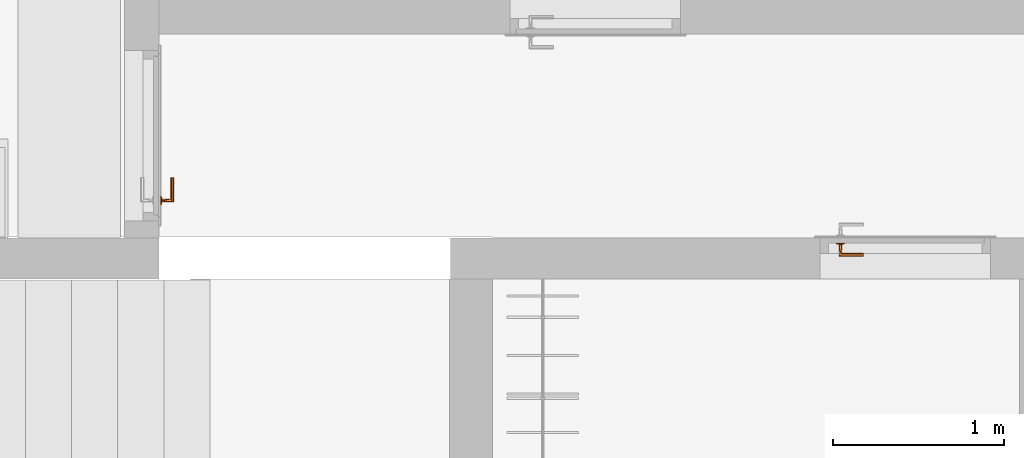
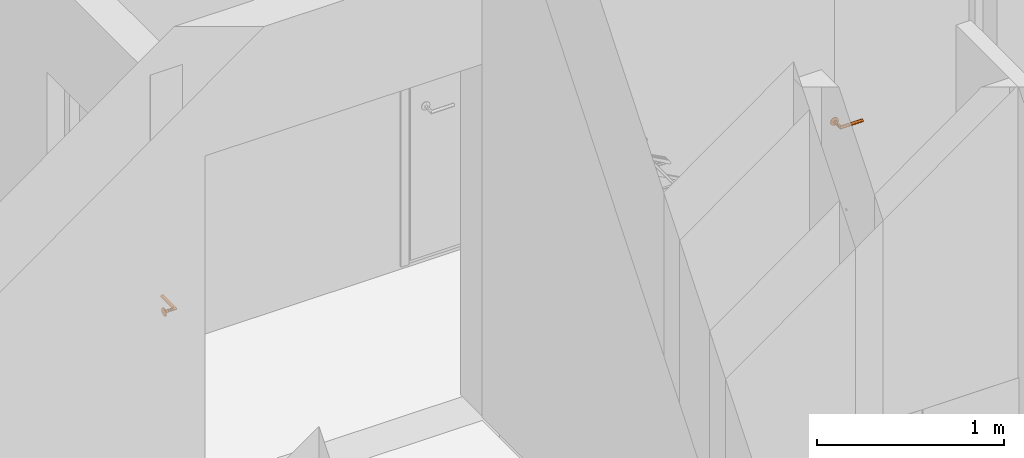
# One storey, part 42 of 68: 2 proxies.
"""IFC2X3 building model written with IfcOpenShell, lengths in millimetres."""

from ifc_helpers import new_model, entity, si_unit, converted_unit, direction, frame, origin, place, context, subcontext, project, spatial, faceted_brep, source, transform, mapped, material, type_object, type_shapes, element, save


model = new_model("IFC2X3")

# Units and contexts
model_context = context("Model", 3, precision=0.01, world=origin(), true_north=direction((6.123233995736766e-17, 1.0)))
plan_context = context("Plan", 3, precision=0.01, world=origin(), true_north=direction((6.123233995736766e-17, 1.0)))
body_context = subcontext(model_context, "Body", "Model", "MODEL_VIEW")
ifc_project = project(units=[si_unit("LENGTHUNIT", "METRE", prefix="MILLI"), converted_unit("PLANEANGLEUNIT", "DEGREE", entity("IfcPlaneAngleMeasure", 0.017453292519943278), si_unit("PLANEANGLEUNIT", "RADIAN"), dimensions=[0, 0, 0, 0, 0, 0, 0]), si_unit("AREAUNIT", "SQUARE_METRE")], contexts=[model_context, plan_context])

# Site, building, storey, space
site_placement = place(None, origin())
site = spatial("IfcSite", under=ifc_project, at=site_placement, Name="Default", CompositionType="ELEMENT")
building_placement = place(site_placement, origin())
building = spatial("IfcBuilding", under=site, at=building_placement, CompositionType="ELEMENT")
storey_placement = place(building_placement, frame((0.0, 0.0, 6295.0)))
storey = spatial("IfcBuildingStorey", under=building, at=storey_placement, Name="3K", CompositionType="ELEMENT", Elevation=6294.999999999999)
space_placement = place(storey_placement, origin())
space = spatial("IfcSpace", under=storey, at=space_placement, Name="3-0.3", CompositionType="ELEMENT", InteriorOrExteriorSpace="INTERNAL")

# Proxies
ifc_material = material(Name="<Unnamed>")
building_element_proxy_type = type_object("IfcBuildingElementProxyType", Name="Door-handle_Lever_ABLOY_INOXI_3-19ss-002_RT:Default", PredefinedType="NOTDEFINED", material=ifc_material)
shared_shape = source(origin(), body_context, "Body", "Brep", [
    faceted_brep([(0.0, 0.0, 0.0), (8.034441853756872, 24.72746942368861, 0.0), (14.534441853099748, 20.00494299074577, 0.0), (21.034441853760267, 15.282416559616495, 0.0), (23.51722092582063, 7.641208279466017, 0.0), (26.0, 0.0, 0.0), (23.517220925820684, -7.641208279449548, 0.0), (0.0, 24.72746942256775, 0.0), (-8.034441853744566, 24.727469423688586, 0.0), (-14.534441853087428, 20.00494299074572, 0.0), (-21.03444185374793, 15.282416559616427, 0.0), (-23.517220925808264, 7.641208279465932, 0.0), (-26.0, 0.0, 0.0), (21.034441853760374, -15.282416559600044, 0.0), (14.534441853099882, -20.004942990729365, 0.0), (8.034441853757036, -24.72746942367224, 0.0), (0.0, -24.72746942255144, 0.0), (-23.517220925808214, -7.641208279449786, 0.0), (-21.034441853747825, -15.282416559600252, 0.0), (-14.53444185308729, -20.004942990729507, 0.0), (-8.0344418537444, -24.72746942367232, 0.0), (0.0, 0.0, 8.0), (9.500000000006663, 0.0, 8.0), (8.312500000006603, 2.056810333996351, 8.0), (7.125000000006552, 4.113620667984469, 8.0), (5.937500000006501, 6.170431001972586, 8.0), (4.7500000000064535, 8.227241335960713, 8.0), (2.375000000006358, 8.2272413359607, 8.0), (0.0, 8.227241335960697, 8.0), (-2.3749999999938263, 8.227241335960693, 8.0), (-4.749999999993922, 8.227241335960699, 8.0), (-5.937499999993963, 6.1704310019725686, 8.0), (-7.124999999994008, 4.1136206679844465, 8.0), (-8.312499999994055, 2.0568103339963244, 8.0), (-9.499999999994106, 0.0, 8.0), (-8.31249999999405, -2.0568103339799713, 8.0), (8.312500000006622, -2.0568103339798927, 8.0), (7.125000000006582, -4.113620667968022, 8.0), (5.937500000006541, -6.170431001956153, 8.0), (4.750000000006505, -8.227241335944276, 8.0), (-7.124999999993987, -4.113620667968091, 8.0), (-5.9374999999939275, -6.17043100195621, 8.0), (-4.74999999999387, -8.227241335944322, 8.0), (-2.374999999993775, -8.227241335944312, 8.0), (0.0, -8.227241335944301, 8.0), (2.3750000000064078, -8.227241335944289, 8.0), (-20.6430713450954, 6.292822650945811, 5.929480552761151), (-16.663919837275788, 7.932665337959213, 6.877259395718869), (-22.48876527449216, 10.806469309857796, 4.030771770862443), (-16.764060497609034, 3.8202578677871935, 7.1747985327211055), (-12.504579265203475, 5.179566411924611, 7.774932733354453), (-11.979136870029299, 13.678312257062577, 6.945778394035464), (-11.963426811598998, 8.62529041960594, 7.618343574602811), (-9.07172672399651, 10.31160661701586, 7.7520782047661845), (8.03444185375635, 24.727469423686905, 4.030771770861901), (0.0, 24.72746942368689, 4.030771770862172), (5.758554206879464, 20.96753300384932, 5.871476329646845), (20.643071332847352, 6.292822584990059, 5.929480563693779), (22.488765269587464, 10.806469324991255, 4.03077177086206), (16.66391982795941, 7.9326653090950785, 6.877259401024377), (9.49943163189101, 18.6436835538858, 6.154325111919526), (14.534441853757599, 20.004942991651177, 4.030771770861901), (-14.534441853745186, 20.00494299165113, 4.030771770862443), (-21.034441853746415, 15.282416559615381, 4.030771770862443), (-15.783149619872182, 11.991003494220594, 6.50080018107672), (-23.943088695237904, 6.330522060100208, 4.030771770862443), (-23.012042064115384, 0.0, 5.135401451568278), (12.50457924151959, 5.179566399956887, 7.774932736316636), (11.963426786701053, 8.625290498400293, 7.618343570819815), (16.76406041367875, 3.820257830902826, 7.17479855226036), (15.783149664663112, 11.991003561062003, 6.50080015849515), (23.01204200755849, 0.0, 5.135401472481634), (17.9853516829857, 0.0, 6.993737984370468), (8.661516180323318, 10.478936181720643, 7.768126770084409), (-3.3573143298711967, 21.197247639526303, 5.971427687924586), (-8.03444185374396, 24.727469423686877, 4.030771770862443), (-7.711266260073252, 12.76034452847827, 7.594456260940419), (-5.97325794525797, 16.43013906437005, 7.110979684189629), (-9.94191586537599, 17.061976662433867, 6.522757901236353), (11.979136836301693, 13.678312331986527, 6.945778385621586), (5.953298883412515, 16.50608604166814, 7.096344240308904), (7.511307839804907, 13.358932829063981, 7.529187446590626), (-1.5654593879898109, 15.307443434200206, 7.519134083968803), (-7.784980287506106, 20.476295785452, 5.812837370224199), (2.8135289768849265, 17.763922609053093, 6.993737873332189), (-17.985351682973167, 0.0, 6.993737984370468), (-26.0, 0.0, 4.030771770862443), (-23.51722092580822, 7.641208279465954, 4.030771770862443), (26.0, 0.0, 4.030771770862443), (24.308823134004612, 5.204907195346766, 4.030771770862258), (23.943088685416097, 6.330522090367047, 4.030771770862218), (21.03444185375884, 15.282416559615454, 4.030771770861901), (22.617646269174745, 10.40981439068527, 4.030771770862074), (20.6430713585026, -6.292822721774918, 5.929480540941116), (16.663919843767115, -7.932665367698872, 6.877259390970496), (22.48876527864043, -10.8064692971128, 4.030771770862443), (16.764060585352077, -3.8202579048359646, 7.174798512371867), (12.504579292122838, -5.17956641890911, 7.774932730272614), (11.979136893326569, -13.678312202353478, 6.9457784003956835), (11.963426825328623, -8.62529034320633, 7.618343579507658), (9.071726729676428, -10.311606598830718, 7.752078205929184), (-8.03444185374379, -24.727469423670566, 4.030771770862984), (0.0, -24.727469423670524, 4.030771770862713), (-5.758554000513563, -20.96753314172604, 5.8714763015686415), (-20.643071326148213, -6.292822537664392, 5.929480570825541), (-22.488765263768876, -10.80646934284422, 4.030771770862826), (-16.66391981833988, -7.932665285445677, 6.877259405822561), (-9.499431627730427, -18.643683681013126, 6.154325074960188), (-14.534441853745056, -20.004942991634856, 4.030771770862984), (14.53444185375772, -20.00494299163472, 4.030771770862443), (21.034441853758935, -15.282416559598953, 4.030771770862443), (15.783149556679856, -11.991003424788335, 6.5008002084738), (23.943088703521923, -6.330522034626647, 4.030771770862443), (-12.504579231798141, -5.17956638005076, 7.77493273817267), (-11.963426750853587, -8.625290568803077, 7.618343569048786), (-16.764060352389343, -3.8202577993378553, 7.174798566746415), (-15.783149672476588, -11.991003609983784, 6.500800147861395), (-8.661516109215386, -10.478936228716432, 7.768126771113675), (3.3573144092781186, -21.197247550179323, 5.971427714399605), (8.034441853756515, -24.727469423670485, 4.030771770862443), (7.711266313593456, -12.760344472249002, 7.5944562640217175), (5.9732581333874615, -16.430139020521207, 7.110979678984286), (9.941915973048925, -17.06197655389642, 6.522757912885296), (-11.979136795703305, -13.678312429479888, 6.945778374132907), (-5.953298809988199, -16.506086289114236, 7.096344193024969), (-7.511307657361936, -13.358932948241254, 7.5291874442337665), (1.5654596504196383, -15.3074431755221, 7.519134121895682), (7.784980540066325, -20.476295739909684, 5.812837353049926), (-2.81352881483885, -17.76392263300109, 6.993737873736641), (23.517220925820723, -7.64120827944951, 4.030771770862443), (-24.308823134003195, -5.20490719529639, 4.030771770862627), (-23.943088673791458, -6.330522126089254, 4.030771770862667), (-21.034441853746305, -15.282416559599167, 4.030771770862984), (-22.617646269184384, -10.409814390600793, 4.0307717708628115)], [[[0, 1, 2]], [[0, 2, 3]], [[0, 3, 4]], [[0, 4, 5]], [[0, 5, 6]], [[0, 7, 1]], [[0, 8, 7]], [[0, 9, 8]], [[0, 10, 9]], [[0, 11, 10]], [[0, 12, 11]], [[0, 6, 13]], [[0, 13, 14]], [[0, 14, 15]], [[0, 15, 16]], [[0, 17, 12]], [[0, 18, 17]], [[0, 19, 18]], [[0, 20, 19]], [[0, 16, 20]], [[21, 22, 23]], [[21, 23, 24]], [[21, 24, 25]], [[21, 25, 26]], [[21, 26, 27]], [[21, 27, 28]], [[21, 28, 29]], [[21, 29, 30]], [[21, 30, 31]], [[21, 31, 32]], [[21, 32, 33]], [[21, 33, 34]], [[21, 34, 35]], [[21, 36, 22]], [[21, 37, 36]], [[21, 38, 37]], [[21, 39, 38]], [[21, 35, 40]], [[21, 40, 41]], [[21, 41, 42]], [[21, 42, 43]], [[21, 43, 44]], [[21, 44, 45]], [[21, 45, 39]], [[46, 47, 48]], [[49, 50, 47]], [[33, 32, 50]], [[51, 52, 53]], [[32, 52, 50]], [[49, 47, 46]], [[54, 55, 56]], [[57, 58, 59]], [[60, 61, 54]], [[62, 63, 64]], [[46, 65, 66]], [[67, 59, 68]], [[23, 69, 67]], [[70, 68, 59]], [[23, 22, 69]], [[52, 51, 64]], [[71, 69, 72]], [[73, 25, 68]], [[74, 55, 75]], [[76, 77, 78]], [[70, 61, 79]], [[71, 57, 69]], [[60, 80, 81]], [[51, 76, 78]], [[77, 29, 82]], [[26, 81, 27]], [[74, 83, 77]], [[77, 82, 74]], [[74, 84, 55]], [[34, 49, 85]], [[23, 67, 24]], [[28, 84, 82]], [[74, 82, 84]], [[29, 76, 30]], [[29, 28, 82]], [[49, 34, 33]], [[47, 50, 52]], [[47, 52, 64]], [[50, 49, 33]], [[53, 76, 51]], [[52, 32, 31]], [[49, 66, 85]], [[86, 66, 65]], [[24, 67, 68]], [[83, 78, 77]], [[49, 46, 66]], [[48, 64, 63]], [[46, 48, 87, 65]], [[48, 47, 64]], [[59, 67, 69]], [[26, 73, 81]], [[79, 68, 70]], [[25, 24, 68]], [[71, 88, 89, 90]], [[22, 72, 69]], [[59, 69, 57]], [[79, 61, 60]], [[51, 62, 64]], [[70, 58, 91]], [[90, 57, 71]], [[58, 70, 59]], [[57, 90, 92]], [[79, 60, 81]], [[61, 70, 91]], [[56, 80, 60]], [[79, 81, 73]], [[80, 84, 27]], [[79, 73, 68]], [[27, 84, 28]], [[25, 73, 26]], [[77, 76, 29]], [[31, 30, 53]], [[78, 62, 51]], [[75, 62, 83]], [[78, 83, 62]], [[75, 83, 74]], [[76, 53, 30]], [[31, 53, 52]], [[81, 80, 27]], [[84, 80, 56]], [[84, 56, 55]], [[54, 56, 60]], [[93, 94, 95]], [[96, 97, 94]], [[36, 37, 97]], [[98, 99, 100]], [[37, 99, 97]], [[96, 94, 93]], [[101, 102, 103]], [[104, 105, 106]], [[107, 108, 101]], [[109, 110, 111]], [[93, 112, 71]], [[113, 106, 114]], [[35, 115, 113]], [[116, 114, 106]], [[35, 34, 115]], [[99, 98, 111]], [[66, 115, 85]], [[117, 41, 114]], [[118, 102, 119]], [[120, 121, 122]], [[116, 108, 123]], [[66, 104, 115]], [[107, 124, 125]], [[120, 45, 121]], [[121, 45, 126]], [[42, 125, 43]], [[118, 127, 121]], [[121, 126, 118]], [[118, 128, 102]], [[22, 96, 72]], [[35, 113, 40]], [[44, 128, 126]], [[118, 126, 128]], [[45, 120, 39]], [[45, 44, 126]], [[96, 22, 36]], [[94, 97, 99]], [[94, 99, 111]], [[97, 96, 36]], [[100, 120, 98]], [[99, 37, 38]], [[96, 71, 72]], [[88, 71, 112]], [[40, 113, 114]], [[127, 122, 121]], [[96, 93, 71]], [[95, 111, 110]], [[93, 95, 129, 112]], [[95, 94, 111]], [[106, 113, 115]], [[42, 117, 125]], [[123, 114, 116]], [[41, 40, 114]], [[66, 86, 130, 131]], [[34, 85, 115]], [[106, 115, 104]], [[123, 108, 107]], [[98, 109, 111]], [[116, 105, 132]], [[131, 104, 66]], [[105, 116, 106]], [[104, 131, 133]], [[123, 107, 125]], [[108, 116, 132]], [[103, 124, 107]], [[123, 125, 117]], [[124, 128, 43]], [[123, 117, 114]], [[43, 128, 44]], [[41, 117, 42]], [[38, 39, 100]], [[98, 120, 122]], [[122, 109, 98]], [[119, 109, 127]], [[122, 127, 109]], [[119, 127, 118]], [[120, 100, 39]], [[38, 100, 99]], [[125, 124, 43]], [[128, 124, 103]], [[128, 103, 102]], [[101, 103, 107]], [[9, 10, 63, 62, 75, 8]], [[11, 12, 86, 65, 87, 48, 63, 10]], [[4, 3, 92, 90, 89, 88, 5]], [[3, 91, 58]], [[55, 54, 1, 7, 8, 75]], [[3, 2, 1, 54, 61, 91]], [[13, 6, 5, 88, 112, 129, 95, 110]], [[119, 15, 14, 13, 110, 109]], [[17, 18, 133, 131, 130, 86, 12]], [[18, 132, 105]], [[102, 101, 20, 16, 15, 119]], [[18, 19, 20, 101, 108, 132]], [[57, 92, 58]], [[104, 133, 105]], [[3, 58, 92]], [[18, 105, 133]]]),
    faceted_brep([(0.0, 9.499999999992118, 8.0), (2.4587809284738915, 9.176295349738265, 8.0), (4.7499999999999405, 8.22724133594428, 8.0), (6.717514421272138, 6.7175144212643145, 8.0), (8.227241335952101, 4.749999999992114, 8.0), (9.17629534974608, 2.458780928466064, 8.0), (9.499999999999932, 0.0, 8.0), (9.17629534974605, -2.458780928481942, 8.0), (8.22724133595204, -4.75000000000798, 8.0), (6.717514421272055, -6.717514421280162, 8.0), (4.7499999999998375, -8.227241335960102, 8.0), (2.4587809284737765, -9.176295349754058, 8.0), (0.0, -9.500000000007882, 8.0), (-2.4587809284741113, -9.176295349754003, 8.0), (-4.750000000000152, -8.227241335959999, 8.0), (-6.717514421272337, -6.717514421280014, 8.0), (-8.227241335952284, -4.750000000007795, 8.0), (-9.176295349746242, -2.458780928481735, 8.0), (-9.500000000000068, 0.0, 8.0), (-9.176295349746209, 2.4587809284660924, 8.0), (-8.227241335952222, 4.74999999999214, 8.0), (-6.717514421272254, 6.717514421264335, 8.0), (-4.7500000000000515, 8.227241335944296, 8.0), (-2.4587809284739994, 9.176295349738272, 8.0), (-6.717514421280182, -6.7175144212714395, 61.282485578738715), (-8.227241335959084, -4.7499999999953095, 59.772758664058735), (-9.176295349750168, -2.458780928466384, 58.82370465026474), (-2.4587809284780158, -9.176295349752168, 65.54121907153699), (-4.750000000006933, -8.227241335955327, 63.25000000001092), (-9.500000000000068, 0.0, 58.50000000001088), (0.0, -9.50000000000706, 68.0), (2.4587809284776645, -9.17629534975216, 70.45878092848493), (4.750000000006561, -8.227241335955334, 72.75000000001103), (6.717514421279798, -6.7175144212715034, 74.71751442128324), (9.17629534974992, -2.458780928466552, 77.17629534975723), (8.22724133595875, -4.749999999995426, 76.22724133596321), (9.499999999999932, 0.0, 77.50000000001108), (9.176295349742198, 2.4587809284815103, 77.1762953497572), (8.227241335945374, 4.750000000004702, 76.22724133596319), (4.749999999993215, 8.227241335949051, 72.75000000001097), (6.7175144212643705, 6.717514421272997, 74.7175144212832), (2.4587809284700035, 9.17629534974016, 70.45878092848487), (-2.4587809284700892, 9.176295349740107, 65.54121907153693), (0.0, 9.49999999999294, 68.0), (-6.717514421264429, 6.717514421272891, 61.282485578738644), (-4.749999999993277, 8.227241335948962, 63.250000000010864), (-9.176295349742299, 2.458780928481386, 58.8237046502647), (-8.227241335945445, 4.750000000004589, 59.77275866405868), (-135.0, 9.500000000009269, 68.0), (-135.0, 9.176295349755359, 65.54121907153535), (-135.0, 8.227241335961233, 63.25000000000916), (-135.0, 6.7175144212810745, 61.28248557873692), (-135.0, 4.750000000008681, 59.772758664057), (-135.0, 2.458780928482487, 58.82370465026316), (-135.0, 0.0, 58.50000000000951), (-135.0, -2.458780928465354, 58.823704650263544), (-135.0, -4.749999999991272, 59.772758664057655), (-135.0, -6.717514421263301, 61.28248557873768), (-135.0, -8.227241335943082, 63.250000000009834), (-135.0, -9.17629534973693, 65.54121907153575), (-135.0, -9.499999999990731, 68.0), (-135.0, -9.17629534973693, 70.45878092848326), (-135.0, -8.227241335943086, 72.75000000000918), (-135.0, -6.717514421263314, 74.71751442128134), (-135.0, -4.749999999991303, 76.22724133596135), (-135.0, -2.4587809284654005, 77.17629534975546), (-135.0, 0.0, 77.5000000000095), (-135.0, 2.4587809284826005, 77.17629534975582), (-135.0, 4.750000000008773, 76.22724133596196), (-135.0, 6.717514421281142, 74.71751442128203), (-135.0, 8.227241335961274, 72.75000000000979), (-135.0, 9.176295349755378, 70.4587809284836)], [[[0, 1, 2, 3, 4, 5, 6, 7, 8, 9, 10, 11, 12, 13, 14, 15, 16, 17, 18, 19, 20, 21, 22, 23]], [[15, 24, 25, 16]], [[16, 25, 26, 17]], [[27, 28, 12]], [[12, 28, 13]], [[13, 28, 24]], [[18, 17, 26, 29]], [[24, 15, 14]], [[14, 13, 24]], [[11, 30, 27]], [[31, 9, 32]], [[32, 8, 33]], [[34, 35, 7]], [[7, 35, 33]], [[36, 34, 7, 6]], [[30, 11, 10]], [[11, 27, 12]], [[33, 8, 7]], [[8, 32, 9]], [[31, 10, 9]], [[10, 31, 30]], [[37, 36, 6, 5]], [[37, 5, 38]], [[39, 40, 4]], [[5, 40, 38]], [[41, 39, 3]], [[5, 4, 40]], [[42, 43, 1]], [[2, 1, 43]], [[2, 41, 3]], [[39, 4, 3]], [[2, 43, 41]], [[23, 44, 45]], [[0, 45, 42]], [[19, 18, 29, 46]], [[20, 19, 46, 47]], [[21, 20, 47, 44]], [[23, 22, 44]], [[45, 0, 23]], [[44, 22, 21]], [[1, 0, 42]], [[48, 49, 50, 51, 52, 53, 54, 55, 56, 57, 58, 59, 60, 61, 62, 63, 64, 65, 66, 67, 68, 69, 70, 71]], [[26, 25, 56, 55]], [[29, 26, 55, 54]], [[28, 27, 59, 58]], [[24, 28, 58, 57]], [[25, 24, 57, 56]], [[27, 30, 60, 59]], [[32, 33, 63, 62]], [[31, 32, 62, 61]], [[34, 36, 66, 65]], [[35, 34, 65, 64]], [[33, 35, 64, 63]], [[61, 60, 30, 31]], [[38, 68, 67, 37]], [[37, 67, 66, 36]], [[41, 71, 70, 39]], [[39, 70, 69, 40]], [[40, 69, 68, 38]], [[48, 71, 41, 43]], [[44, 51, 50, 45]], [[45, 50, 49, 42]], [[29, 54, 53, 46]], [[46, 53, 52, 47]], [[47, 52, 51, 44]], [[42, 49, 48, 43]]]),
])
type_shapes(building_element_proxy_type, [shared_shape])
proxy_1_placement = place(space_placement, frame((3354.99353497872, 6864.999979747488, 1000.0), z_axis=(1.0, 0.0, 0.0), x_axis=(0.0, -1.0, 0.0)))
element("IfcBuildingElementProxy", 1, at=proxy_1_placement, inside=space, type_object=building_element_proxy_type, material=ifc_material, Name="Door-handle_Lever_ABLOY_INOXI_3-19ss-002_RT:Default", ObjectType="Door-handle_Lever_ABLOY_INOXI_3-19ss-002_RT:Default", context=body_context, shape_type="MappedRepresentation", body=[
    mapped(shared_shape, transform((0.0, 0.0, 0.0), scale=1.0)),
])
proxy_2_placement = place(storey_placement, frame((7340.0, 6614.999959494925, 1000.0), z_axis=(0.0, -1.0, 0.0), x_axis=(-1.0, 0.0, 0.0)))
element("IfcBuildingElementProxy", 2, at=proxy_2_placement, inside=storey, type_object=building_element_proxy_type, material=ifc_material, Name="Door-handle_Lever_ABLOY_INOXI_3-19ss-002_RT:Default", ObjectType="Door-handle_Lever_ABLOY_INOXI_3-19ss-002_RT:Default", context=body_context, shape_type="MappedRepresentation", body=[
    mapped(shared_shape, transform((0.0, 0.0, 0.0), scale=1.0)),
])

save(model, "model.ifc")
